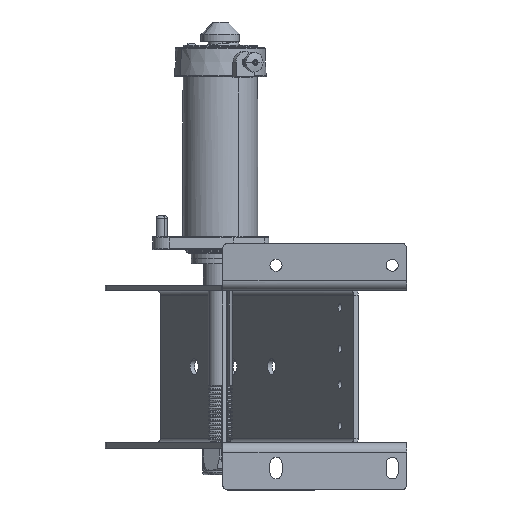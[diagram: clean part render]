
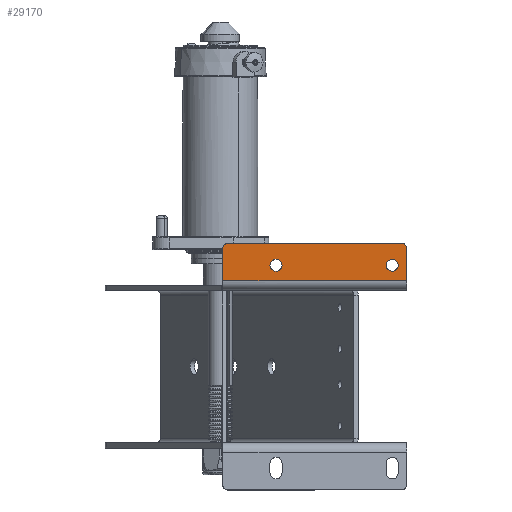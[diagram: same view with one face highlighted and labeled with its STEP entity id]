
A CAD part, front view. The second image highlights one B-rep face of the part: STEP entity #29170.
In plain terms, the highlighted planar face has unit normal (0, -0.999, -0.035).
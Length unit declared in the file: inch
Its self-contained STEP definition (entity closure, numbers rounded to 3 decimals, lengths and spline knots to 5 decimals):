
#174 = CARTESIAN_POINT ( 'NONE',  ( 0.37438, 0.06856, 1.21941 ) ) ;
#511 = ORIENTED_EDGE ( 'NONE', *, *, #4438, .T. ) ;
#729 = ORIENTED_EDGE ( 'NONE', *, *, #5275, .T. ) ;
#835 = CARTESIAN_POINT ( 'NONE',  ( 0.37519, 0.00436, 3.05771 ) ) ;
#977 = CIRCLE ( 'NONE', #43164, 0.156 ) ;
#1599 = DIRECTION ( 'NONE',  ( 0., -0.999, -0.035 ) ) ;
#2465 = DIRECTION ( 'NONE',  ( 0.866, 0.017, -0.499 ) ) ;
#2745 = DIRECTION ( 'NONE',  ( 0., 0.999, 0.035 ) ) ;
#3531 = EDGE_CURVE ( 'NONE', #46556, #27391, #977, .T. ) ;
#3616 = DIRECTION ( 'NONE',  ( 1., 0., 0. ) ) ;
#3731 = ORIENTED_EDGE ( 'NONE', *, *, #18955, .T. ) ;
#4190 = DIRECTION ( 'NONE',  ( 0., 0.035, -0.999 ) ) ;
#4438 = EDGE_CURVE ( 'NONE', #36867, #48263, #27158, .T. ) ;
#4845 = CARTESIAN_POINT ( 'NONE',  ( -10.51253, 0.37128, -7.44942 ) ) ;
#5275 = EDGE_CURVE ( 'NONE', #41734, #15383, #37511, .T. ) ;
#5407 = ORIENTED_EDGE ( 'NONE', *, *, #3531, .T. ) ;
#6586 = FACE_OUTER_BOUND ( 'NONE', #22704, .T. ) ;
#6706 = DIRECTION ( 'NONE',  ( 0.866, 0.017, -0.499 ) ) ;
#7277 = CIRCLE ( 'NONE', #26920, 0.125 ) ;
#7468 = ORIENTED_EDGE ( 'NONE', *, *, #18723, .T. ) ;
#7743 = CARTESIAN_POINT ( 'NONE',  ( -4.37438, 0.00436, 3.05777 ) ) ;
#8256 = VECTOR ( 'NONE', #43709, 39.37008 ) ;
#8359 = LINE ( 'NONE', #39668, #8256 ) ;
#8631 = CARTESIAN_POINT ( 'NONE',  ( 0.37525, 0., 3.18269 ) ) ;
#8928 = EDGE_LOOP ( 'NONE', ( #3731, #729 ) ) ;
#9966 = EDGE_CURVE ( 'NONE', #26538, #13364, #31957, .T. ) ;
#10599 = AXIS2_PLACEMENT_3D ( 'NONE', #50743, #2745, #6706 ) ;
#11024 = DIRECTION ( 'NONE',  ( 0., -0.999, -0.035 ) ) ;
#11534 = AXIS2_PLACEMENT_3D ( 'NONE', #32591, #16786, #37027 ) ;
#11601 = DIRECTION ( 'NONE',  ( -1., 0., 0. ) ) ;
#12302 = ORIENTED_EDGE ( 'NONE', *, *, #19629, .F. ) ;
#12929 = DIRECTION ( 'NONE',  ( 0., -0.999, -0.035 ) ) ;
#13236 = ORIENTED_EDGE ( 'NONE', *, *, #9966, .T. ) ;
#13364 = VERTEX_POINT ( 'NONE', #46502 ) ;
#13438 = EDGE_CURVE ( 'NONE', #36867, #13364, #19596, .T. ) ;
#13811 = LINE ( 'NONE', #8631, #48765 ) ;
#14864 = DIRECTION ( 'NONE',  ( 0., 0.999, 0.035 ) ) ;
#15174 = CARTESIAN_POINT ( 'NONE',  ( -0.13512, 0.0169, 2.69861 ) ) ;
#15383 = VERTEX_POINT ( 'NONE', #49539 ) ;
#15456 = DIRECTION ( 'NONE',  ( 1., 0., 0. ) ) ;
#15994 = AXIS2_PLACEMENT_3D ( 'NONE', #33182, #1599, #40890 ) ;
#16786 = DIRECTION ( 'NONE',  ( 0., 0.999, 0.035 ) ) ;
#17778 = CIRCLE ( 'NONE', #10599, 0.156 ) ;
#17961 = VECTOR ( 'NONE', #4190, 39.37008 ) ;
#18585 = CIRCLE ( 'NONE', #23863, 0.156 ) ;
#18723 = EDGE_CURVE ( 'NONE', #20720, #50126, #45607, .T. ) ;
#18955 = EDGE_CURVE ( 'NONE', #15383, #41734, #18585, .T. ) ;
#19596 = LINE ( 'NONE', #174, #17961 ) ;
#19629 = EDGE_CURVE ( 'NONE', #26538, #36172, #8359, .T. ) ;
#20020 = ORIENTED_EDGE ( 'NONE', *, *, #36119, .F. ) ;
#20720 = VERTEX_POINT ( 'NONE', #39003 ) ;
#22704 = EDGE_LOOP ( 'NONE', ( #20020, #7468, #28299, #12302, #13236, #28126, #511 ) ) ;
#22758 = CARTESIAN_POINT ( 'NONE',  ( 0., 0.01963, 2.6207 ) ) ;
#23863 = AXIS2_PLACEMENT_3D ( 'NONE', #29615, #14864, #2465 ) ;
#24048 = CARTESIAN_POINT ( 'NONE',  ( -4.37422, 0.03382, 2.21412 ) ) ;
#25326 = CARTESIAN_POINT ( 'NONE',  ( 0.25019, 0., 3.18269 ) ) ;
#25438 = EDGE_CURVE ( 'NONE', #27391, #46556, #17778, .T. ) ;
#26430 = AXIS2_PLACEMENT_3D ( 'NONE', #47689, #11024, #26446 ) ;
#26446 = DIRECTION ( 'NONE',  ( -1., 0., 0. ) ) ;
#26538 = VERTEX_POINT ( 'NONE', #24048 ) ;
#26824 = DIRECTION ( 'NONE',  ( 0., 0.999, 0.035 ) ) ;
#26920 = AXIS2_PLACEMENT_3D ( 'NONE', #44587, #47932, #11601 ) ;
#27158 = CIRCLE ( 'NONE', #15994, 0.125 ) ;
#27391 = VERTEX_POINT ( 'NONE', #49334 ) ;
#28126 = ORIENTED_EDGE ( 'NONE', *, *, #13438, .F. ) ;
#28299 = ORIENTED_EDGE ( 'NONE', *, *, #44149, .T. ) ;
#29170 = ADVANCED_FACE ( 'NONE', ( #42252, #42770, #6586 ), #32750, .T. ) ;
#29615 = CARTESIAN_POINT ( 'NONE',  ( -3., 0.01966, 2.61969 ) ) ;
#31492 = AXIS2_PLACEMENT_3D ( 'NONE', #4845, #12929, #49535 ) ;
#31957 = LINE ( 'NONE', #46021, #49242 ) ;
#32591 = CARTESIAN_POINT ( 'NONE',  ( -3., 0.01966, 2.61969 ) ) ;
#32750 = PLANE ( 'NONE',  #31492 ) ;
#33182 = CARTESIAN_POINT ( 'NONE',  ( 0.25019, 0.00436, 3.05777 ) ) ;
#36119 = EDGE_CURVE ( 'NONE', #20720, #48263, #13811, .T. ) ;
#36172 = VERTEX_POINT ( 'NONE', #43938 ) ;
#36867 = VERTEX_POINT ( 'NONE', #835 ) ;
#37027 = DIRECTION ( 'NONE',  ( 0.866, 0.017, -0.499 ) ) ;
#37238 = CARTESIAN_POINT ( 'NONE',  ( -3.13512, 0.01694, 2.6976 ) ) ;
#37511 = CIRCLE ( 'NONE', #11534, 0.156 ) ;
#39003 = CARTESIAN_POINT ( 'NONE',  ( -4.24938, 0., 3.18269 ) ) ;
#39668 = CARTESIAN_POINT ( 'NONE',  ( -4.3744, 0., 3.18269 ) ) ;
#40549 = ORIENTED_EDGE ( 'NONE', *, *, #25438, .T. ) ;
#40890 = DIRECTION ( 'NONE',  ( -1., 0., 0. ) ) ;
#41734 = VERTEX_POINT ( 'NONE', #37238 ) ;
#42252 = FACE_BOUND ( 'NONE', #43039, .T. ) ;
#42770 = FACE_BOUND ( 'NONE', #8928, .T. ) ;
#43039 = EDGE_LOOP ( 'NONE', ( #40549, #5407 ) ) ;
#43164 = AXIS2_PLACEMENT_3D ( 'NONE', #22758, #26824, #46676 ) ;
#43709 = DIRECTION ( 'NONE',  ( 0., -0.035, 0.999 ) ) ;
#43938 = CARTESIAN_POINT ( 'NONE',  ( -4.37438, 0.00436, 3.05774 ) ) ;
#44149 = EDGE_CURVE ( 'NONE', #50126, #36172, #7277, .T. ) ;
#44587 = CARTESIAN_POINT ( 'NONE',  ( -4.24938, 0.00436, 3.05777 ) ) ;
#45607 = CIRCLE ( 'NONE', #26430, 0.125 ) ;
#46021 = CARTESIAN_POINT ( 'NONE',  ( -10.51253, 0.03382, 2.21412 ) ) ;
#46502 = CARTESIAN_POINT ( 'NONE',  ( 0.37482, 0.03382, 2.21412 ) ) ;
#46556 = VERTEX_POINT ( 'NONE', #15174 ) ;
#46676 = DIRECTION ( 'NONE',  ( 0.866, 0.017, -0.499 ) ) ;
#47689 = CARTESIAN_POINT ( 'NONE',  ( -4.24938, 0.00436, 3.05777 ) ) ;
#47932 = DIRECTION ( 'NONE',  ( 0., -0.999, -0.035 ) ) ;
#48263 = VERTEX_POINT ( 'NONE', #25326 ) ;
#48765 = VECTOR ( 'NONE', #3616, 39.37008 ) ;
#49242 = VECTOR ( 'NONE', #15456, 39.37008 ) ;
#49334 = CARTESIAN_POINT ( 'NONE',  ( 0.13512, 0.02235, 2.54279 ) ) ;
#49535 = DIRECTION ( 'NONE',  ( -0.866, -0.017, 0.499 ) ) ;
#49539 = CARTESIAN_POINT ( 'NONE',  ( -2.86488, 0.02238, 2.54177 ) ) ;
#50126 = VERTEX_POINT ( 'NONE', #7743 ) ;
#50743 = CARTESIAN_POINT ( 'NONE',  ( 0., 0.01963, 2.6207 ) ) ;
